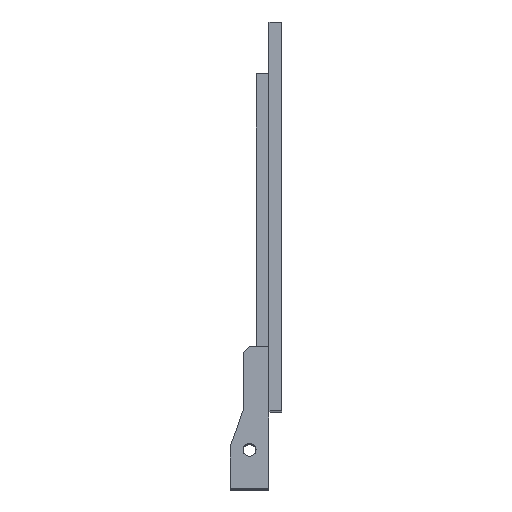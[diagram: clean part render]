
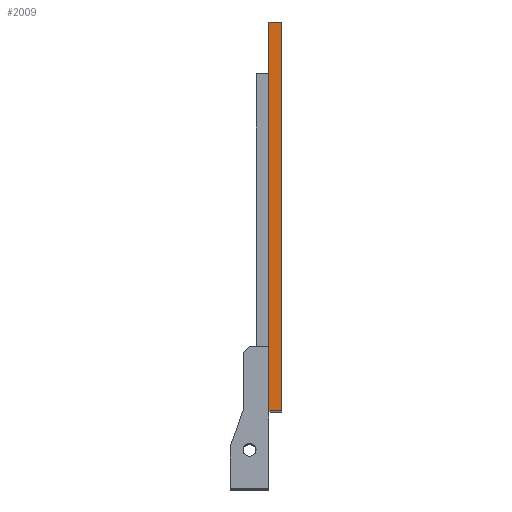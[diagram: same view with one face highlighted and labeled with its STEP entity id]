
A CAD part, top view. The second image highlights one B-rep face of the part: STEP entity #2009.
In plain terms, the highlighted planar face has unit normal (0, 0, 1).
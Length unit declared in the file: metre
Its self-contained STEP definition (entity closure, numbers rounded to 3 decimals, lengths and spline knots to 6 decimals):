
#145=ORIENTED_EDGE('',*,*,#734,.T.);
#146=ORIENTED_EDGE('',*,*,#697,.F.);
#147=ORIENTED_EDGE('',*,*,#735,.F.);
#148=ORIENTED_EDGE('',*,*,#679,.T.);
#679=EDGE_CURVE('',#976,#975,#1168,.T.);
#697=EDGE_CURVE('',#990,#987,#1186,.T.);
#734=EDGE_CURVE('',#975,#987,#1219,.T.);
#735=EDGE_CURVE('',#976,#990,#1220,.T.);
#975=VERTEX_POINT('',#2852);
#976=VERTEX_POINT('',#2854);
#987=VERTEX_POINT('',#2884);
#990=VERTEX_POINT('',#2889);
#1168=LINE('',#2853,#1443);
#1186=LINE('',#2890,#1461);
#1219=LINE('',#2971,#1494);
#1220=LINE('',#2972,#1495);
#1443=VECTOR('',#2289,1.);
#1461=VECTOR('',#2315,1.);
#1494=VECTOR('',#2372,1.);
#1495=VECTOR('',#2373,1.);
#1692=EDGE_LOOP('',(#145,#146,#147,#148));
#1805=FACE_BOUND('',#1692,.T.);
#1916=PLANE('',#2133);
#2009=ADVANCED_FACE('',(#1805),#1916,.F.);
#2133=AXIS2_PLACEMENT_3D('',#2970,#2370,#2371);
#2289=DIRECTION('',(0.,-1.,0.));
#2315=DIRECTION('',(0.,-1.,0.));
#2370=DIRECTION('',(0.,0.,-1.));
#2371=DIRECTION('',(-1.,0.,0.));
#2372=DIRECTION('',(1.,0.,0.));
#2373=DIRECTION('',(1.,0.,0.));
#2852=CARTESIAN_POINT('',(0.028,-0.028,0.058));
#2853=CARTESIAN_POINT('',(0.028,0.032,0.058));
#2854=CARTESIAN_POINT('',(0.028,0.032,0.058));
#2884=CARTESIAN_POINT('',(0.03,-0.028,0.058));
#2889=CARTESIAN_POINT('',(0.03,0.032,0.058));
#2890=CARTESIAN_POINT('',(0.03,0.032,0.058));
#2970=CARTESIAN_POINT('',(0.029,0.032,0.058));
#2971=CARTESIAN_POINT('',(0.029,-0.028,0.058));
#2972=CARTESIAN_POINT('',(0.029,0.032,0.058));
